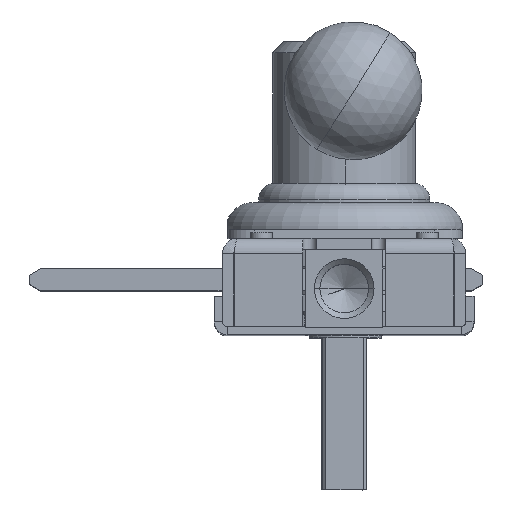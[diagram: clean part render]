
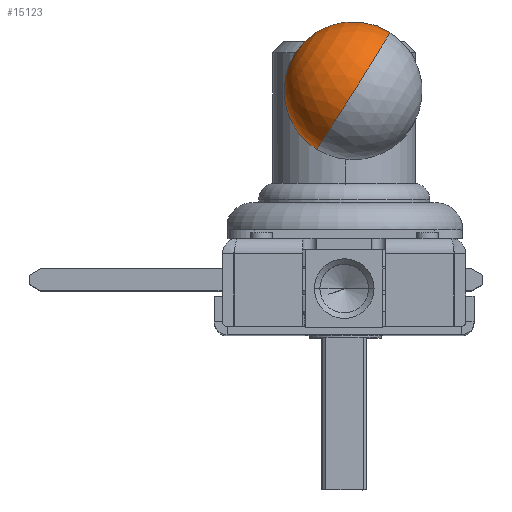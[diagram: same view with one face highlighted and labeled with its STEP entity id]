
A CAD part, top view. The second image highlights one B-rep face of the part: STEP entity #15123.
In plain terms, the highlighted spherical face has radius 12.5 mm.
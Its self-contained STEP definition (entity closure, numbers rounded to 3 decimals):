
#421 = CARTESIAN_POINT ( 'NONE',  ( -7.5, -10., 0. ) ) ;
#640 = EDGE_CURVE ( 'NONE', #9889, #3328, #9489, .T. ) ;
#832 = FACE_OUTER_BOUND ( 'NONE', #15907, .T. ) ;
#1183 = SPHERICAL_SURFACE ( 'NONE', #7407, 12.5 ) ;
#2336 = DIRECTION ( 'NONE',  ( 0., 1., 0. ) ) ;
#2871 = DIRECTION ( 'NONE',  ( -1., 0., 0. ) ) ;
#3135 = DIRECTION ( 'NONE',  ( 1., 0., 0. ) ) ;
#3254 = DIRECTION ( 'NONE',  ( -1., 0., 0. ) ) ;
#3328 = VERTEX_POINT ( 'NONE', #11255 ) ;
#4266 = CARTESIAN_POINT ( 'NONE',  ( 0., -10., 0. ) ) ;
#4861 = DIRECTION ( 'NONE',  ( 0., 0., 1. ) ) ;
#5210 = CARTESIAN_POINT ( 'NONE',  ( 0., 0., 0. ) ) ;
#6161 = EDGE_CURVE ( 'NONE', #8931, #9889, #14241, .T. ) ;
#7407 = AXIS2_PLACEMENT_3D ( 'NONE', #8938, #8928, #8900 ) ;
#8900 = DIRECTION ( 'NONE',  ( 1., 0., 0. ) ) ;
#8928 = DIRECTION ( 'NONE',  ( 0., 0., -1. ) ) ;
#8931 = VERTEX_POINT ( 'NONE', #421 ) ;
#8938 = CARTESIAN_POINT ( 'NONE',  ( 0., 0., 0. ) ) ;
#9130 = DIRECTION ( 'NONE',  ( 0., 0., -1. ) ) ;
#9489 = CIRCLE ( 'NONE', #22479, 12.5 ) ;
#9889 = VERTEX_POINT ( 'NONE', #21577 ) ;
#10003 = EDGE_CURVE ( 'NONE', #8931, #3328, #10954, .T. ) ;
#10954 = CIRCLE ( 'NONE', #11358, 12.5 ) ;
#11255 = CARTESIAN_POINT ( 'NONE',  ( 0., 12.5, 0. ) ) ;
#11358 = AXIS2_PLACEMENT_3D ( 'NONE', #5210, #9130, #2871 ) ;
#12310 = AXIS2_PLACEMENT_3D ( 'NONE', #4266, #2336, #3254 ) ;
#14241 = CIRCLE ( 'NONE', #12310, 7.5 ) ;
#15123 = ADVANCED_FACE ( 'NONE', ( #832 ), #1183, .T. ) ;
#15216 = ORIENTED_EDGE ( 'NONE', *, *, #10003, .F. ) ;
#15509 = CARTESIAN_POINT ( 'NONE',  ( 0., 0., 0. ) ) ;
#15907 = EDGE_LOOP ( 'NONE', ( #15216, #22674, #21058 ) ) ;
#21058 = ORIENTED_EDGE ( 'NONE', *, *, #640, .T. ) ;
#21577 = CARTESIAN_POINT ( 'NONE',  ( 7.5, -10., 0. ) ) ;
#22479 = AXIS2_PLACEMENT_3D ( 'NONE', #15509, #4861, #3135 ) ;
#22674 = ORIENTED_EDGE ( 'NONE', *, *, #6161, .T. ) ;
